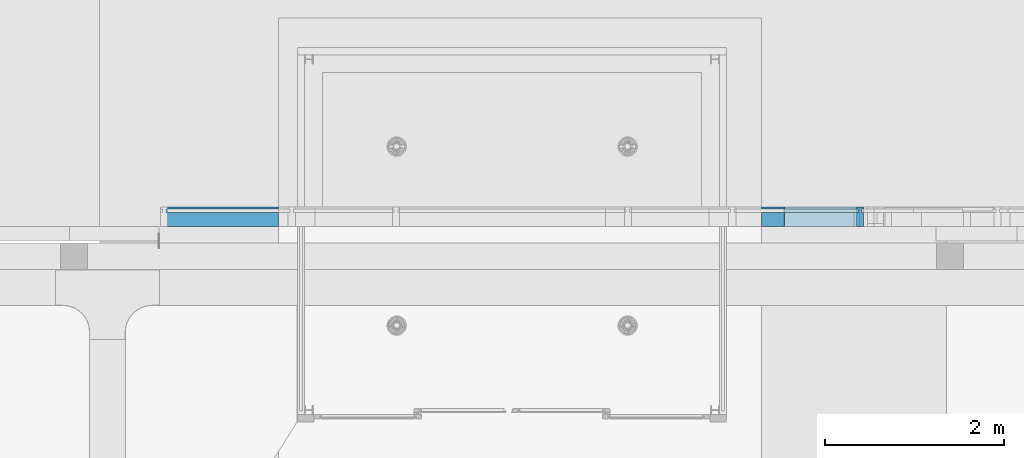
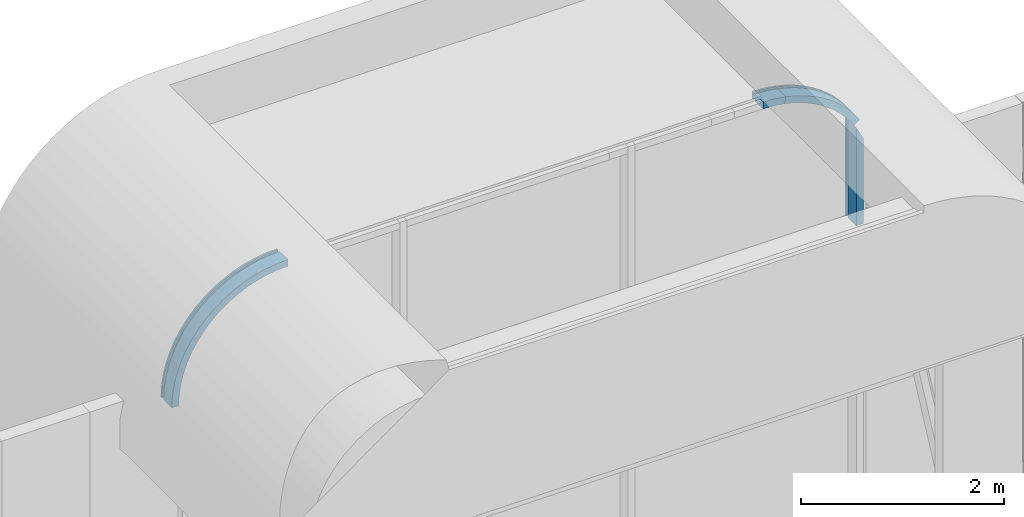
# One storey, part 211 of 302: 4 members, 1 element without a shape of its own.
"""IFC2X3 building model written with IfcOpenShell, lengths in metres."""

import ifcopenshell
import ifcopenshell.guid

model = None  # the IFC model being written
_history = None  # IfcOwnerHistory: only IFC2X3 demands one
_inside = {}  # id of a spatial element -> (the spatial element, [elements in it])
_under = {}  # id of a project, library or spatial element -> (it, [spatial elements below it])
_declared = {}  # id of a project -> (the project, [libraries it declares])
_typed = {}  # id of a type object -> (the type object, [elements of that type])
_made_of = {}  # id of a material, layer set ... -> (it, [elements and type objects made of it])


def new_model(schema):
    """Start an empty IFC model of exactly this schema.

    Asked for "IFC4X3", IfcOpenShell would pick the latest addendum, in which some entities
    have other attributes; the version numbers below select the first issue.
    IFC2X3 requires an IfcOwnerHistory on every rooted entity: one is made here for all.
    """
    global model, _history
    if schema == "IFC4X3":
        model = ifcopenshell.file(schema_version=(4, 3, 0, 0))
    else:
        model = ifcopenshell.file(schema=schema)
    _inside.clear()
    _under.clear()
    _declared.clear()
    _typed.clear()
    _made_of.clear()
    _history = None
    if model.schema == "IFC2X3":
        org = make("IfcOrganization", Name="unknown")
        user = make(
            "IfcPersonAndOrganization",
            ThePerson=make("IfcPerson", FamilyName="unknown"),
            TheOrganization=org,
        )
        app = make(
            "IfcApplication",
            ApplicationDeveloper=org,
            Version="unknown",
            ApplicationFullName="unknown",
            ApplicationIdentifier="unknown",
        )
        _history = make(
            "IfcOwnerHistory",
            OwningUser=user,
            OwningApplication=app,
            ChangeAction="ADDED",
            CreationDate=0,
        )
    return model


def make(cls, **values):
    """One entity of the class cls with the attributes given. An attribute that is None is left unset."""
    return model.create_entity(
        cls, **{name: value for name, value in values.items() if value is not None}
    )


def entity(cls, *values):
    """Any entity or typed value of the class cls, its attributes in the order of the schema. None: left unset."""
    e = model.create_entity(cls)
    for i, value in enumerate(values):
        if value is not None:
            e[i] = value
    return e


def rooted(cls, **values):
    """An entity with a GlobalId (a new one), such as an element, a storey or a relation."""
    return make(cls, GlobalId=ifcopenshell.guid.new(), OwnerHistory=_history, **values)


def si_unit(unit_type, name, prefix=None):
    """IfcSIUnit, for example si_unit("LENGTHUNIT", "METRE", prefix="MILLI")."""
    return make("IfcSIUnit", UnitType=unit_type, Prefix=prefix, Name=name)


def converted_unit(unit_type, name, factor, base, dimensions=None, offset=None):
    """IfcConversionBasedUnit, such as the inch: factor (a typed value) times the base unit."""
    return make(
        "IfcConversionBasedUnit"
        if offset is None
        else "IfcConversionBasedUnitWithOffset",
        ConversionOffset=offset,
        Dimensions=None
        if dimensions is None
        else entity("IfcDimensionalExponents", *dimensions),
        UnitType=unit_type,
        Name=name,
        ConversionFactor=make(
            "IfcMeasureWithUnit", ValueComponent=factor, UnitComponent=base
        ),
    )


def derived_unit(unit_type, elements):
    """IfcDerivedUnit: a product of units, each with its exponent."""
    return make(
        "IfcDerivedUnit",
        Elements=[
            make("IfcDerivedUnitElement", Unit=unit, Exponent=power)
            for unit, power in elements
        ],
        UnitType=unit_type,
    )


def assignment(units):
    """IfcUnitAssignment: the units of a project."""
    return None if units is None else make("IfcUnitAssignment", Units=units)


def point(xyz):
    """IfcCartesianPoint."""
    return None if xyz is None else make("IfcCartesianPoint", Coordinates=xyz)


def direction(xyz):
    """IfcDirection."""
    return None if xyz is None else make("IfcDirection", DirectionRatios=xyz)


def frame(location, z_axis=None, x_axis=None):
    """IfcAxis2Placement3D, a coordinate frame: its origin and axes. An axis left out is left unset."""
    return make(
        "IfcAxis2Placement3D",
        Location=point(location),
        Axis=direction(z_axis),
        RefDirection=direction(x_axis),
    )


def origin():
    """The frame at (0, 0, 0) with its axes left unset."""
    return frame((0.0, 0.0, 0.0))


def place(relative_to, where):
    """IfcLocalPlacement: puts the frame where relative to a parent placement (None: the world)."""
    return make(
        "IfcLocalPlacement", PlacementRelTo=relative_to, RelativePlacement=where
    )


def context(
    kind, dimensions, precision=None, world=None, true_north=None, identifier=None
):
    """IfcGeometricRepresentationContext, for example the 3D "Model" context."""
    return make(
        "IfcGeometricRepresentationContext",
        ContextIdentifier=identifier,
        ContextType=kind,
        CoordinateSpaceDimension=dimensions,
        Precision=precision,
        WorldCoordinateSystem=world,
        TrueNorth=true_north,
    )


def subcontext(parent, identifier, kind, view, scale=None):
    """IfcGeometricRepresentationSubContext, for example "Body" below "Model"."""
    return make(
        "IfcGeometricRepresentationSubContext",
        ContextIdentifier=identifier,
        ContextType=kind,
        ParentContext=parent,
        TargetScale=scale,
        TargetView=view,
    )


def project(units=None, contexts=None):
    """IfcProject with its units and contexts."""
    return rooted(
        "IfcProject",
        Name="project",
        RepresentationContexts=contexts,
        UnitsInContext=assignment(units),
    )


def spatial(cls, under=None, at=None, **own):
    """A site, building, storey or space (cls), placed at a placement, below another one or the project."""
    s = rooted(cls, ObjectPlacement=at, **own)
    if under is not None:
        _under.setdefault(under.id(), (under, []))[1].append(s)
    return s


def faces_of(points, faces, orient=None, outer=None):
    """IfcFace entities. A face is a list of loops; a loop is a list of indices into points, from 0.

    orient and outer hold one flag for each loop. By default every Orientation is true, the
    first loop of a face is its IfcFaceOuterBound and the others are IfcFaceBound.
    """
    made = []
    for i, loops in enumerate(faces):
        bounds = []
        for j, loop in enumerate(loops):
            is_outer = j == 0 if outer is None else outer[i][j]
            bounds.append(
                make(
                    "IfcFaceOuterBound" if is_outer else "IfcFaceBound",
                    Bound=make("IfcPolyLoop", Polygon=[points[k] for k in loop]),
                    Orientation=True if orient is None else orient[i][j],
                )
            )
        made.append(make("IfcFace", Bounds=bounds))
    return made


def faceted_brep(points, faces, orient=None, outer=None, voids=None):
    """IfcFacetedBrep: a solid bounded by flat faces; with voids (closed shells), ...WithVoids."""
    shared = [point(p) for p in points]
    hull = make("IfcClosedShell", CfsFaces=faces_of(shared, faces, orient, outer))
    if voids is None:
        return make("IfcFacetedBrep", Outer=hull)
    return make(
        "IfcFacetedBrepWithVoids",
        Outer=hull,
        Voids=[
            make(cls, CfsFaces=faces_of(shared, fs, o, b)) for cls, fs, o, b in voids
        ],
    )


def shape(context_of_items, identifier, shape_type, items):
    """IfcShapeRepresentation: the items that make up one representation, for example the "Body"."""
    return make(
        "IfcShapeRepresentation",
        ContextOfItems=context_of_items,
        RepresentationIdentifier=identifier,
        RepresentationType=shape_type,
        Items=items,
    )


def source(mapping_origin, context_of_items, identifier, shape_type, items):
    """IfcRepresentationMap: a shape defined once, which mapped items show again and again."""
    return make(
        "IfcRepresentationMap",
        MappingOrigin=mapping_origin,
        MappedRepresentation=shape(context_of_items, identifier, shape_type, items),
    )


def transform(
    local_origin,
    x_axis=None,
    y_axis=None,
    z_axis=None,
    scale=None,
    scale2=None,
    scale3=None,
    uniform=True,
):
    """IfcCartesianTransformationOperator3D, or its non-uniform kind. x_axis, y_axis, z_axis: its Axis1, 2, 3."""
    if uniform:
        return make(
            "IfcCartesianTransformationOperator3D",
            Axis1=direction(x_axis),
            Axis2=direction(y_axis),
            LocalOrigin=point(local_origin),
            Scale=scale,
            Axis3=direction(z_axis),
        )
    return make(
        "IfcCartesianTransformationOperator3DnonUniform",
        Axis1=direction(x_axis),
        Axis2=direction(y_axis),
        LocalOrigin=point(local_origin),
        Scale=scale,
        Axis3=direction(z_axis),
        Scale2=scale2,
        Scale3=scale3,
    )


def mapped(mapping_source, mapping_target):
    """IfcMappedItem: shows the shape of a source again, moved by a transform."""
    return make(
        "IfcMappedItem", MappingSource=mapping_source, MappingTarget=mapping_target
    )


def material(Name=None, Category=None):
    """IfcMaterial."""
    return make("IfcMaterial", Name=Name, Category=Category)


def made_of(thing, what):
    """Note that an element or type object is made of a material, layer set ...; save() writes the relation."""
    if what is not None:
        _made_of.setdefault(what.id(), (what, []))[1].append(thing)
    return thing


def type_object(cls, material=None, **own):
    """A type object (cls), such as IfcWallType, which elements share."""
    return made_of(rooted(cls, **own), material)


def type_shapes(of_type, sources):
    """Give a type object the sources (RepresentationMaps) that its elements show as mapped items."""
    of_type.RepresentationMaps = sources


def element(
    cls,
    number,
    at=None,
    inside=None,
    cuts=None,
    type_object=None,
    material=None,
    context=None,
    identifier="Body",
    shape_type=None,
    held_by="IfcProductDefinitionShape",
    body=None,
    shapes=None,
    **own,
):
    """One element of the class cls, such as IfcWall. Its Tag is "e" and its number.

    at: its placement. inside: the storey or other place that contains it. cuts: it is an
    opening in that element (IfcRelVoidsElement). A single representation is given by context,
    identifier, shape_type and body (its items); several are given by shapes. held_by: the class
    of the entity that holds the representations. save() writes the other relations.
    """
    e = rooted(cls, Tag="e%d" % number, ObjectPlacement=at, **own)
    if body is not None:
        shapes = [shape(context, identifier, shape_type, body)]
    if shapes is not None:
        e.Representation = make(held_by, Representations=shapes)
    if inside is not None:
        _inside.setdefault(inside.id(), (inside, []))[1].append(e)
    if cuts is not None:
        rooted(
            "IfcRelVoidsElement", RelatingBuildingElement=cuts, RelatedOpeningElement=e
        )
    if type_object is not None:
        _typed.setdefault(type_object.id(), (type_object, []))[1].append(e)
    return made_of(e, material)


def aggregate(whole, parts):
    """IfcRelAggregates: a whole, such as a stair, and the parts it consists of."""
    return rooted("IfcRelAggregates", RelatingObject=whole, RelatedObjects=parts)


def save(model, path):
    """Write the relations noted so far, then the file.

    IfcRelAggregates (storeys below a building ...), IfcRelContainedInSpatialStructure (elements
    in a storey), IfcRelDefinesByType, IfcRelAssociatesMaterial and IfcRelDeclares: one each for
    every whole, place, type object, material and project.
    """
    for whole, parts in _under.values():
        aggregate(whole, parts)
    for where, things in _inside.values():
        rooted(
            "IfcRelContainedInSpatialStructure",
            RelatedElements=things,
            RelatingStructure=where,
        )
    for kind, things in _typed.values():
        rooted("IfcRelDefinesByType", RelatedObjects=things, RelatingType=kind)
    for what, things in _made_of.values():
        rooted("IfcRelAssociatesMaterial", RelatedObjects=things, RelatingMaterial=what)
    for by, libraries in _declared.values():
        rooted("IfcRelDeclares", RelatingContext=by, RelatedDefinitions=libraries)
    model.write(path)


model = new_model("IFC2X3")

# Units and contexts
model_context = context("Model", 3, precision=1e-05, world=origin(), true_north=direction((6.12303176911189e-17, 1.0)))
body_context = subcontext(model_context, "Body", "Model", "MODEL_VIEW")
ifc_project = project(units=[si_unit("LENGTHUNIT", "METRE"), si_unit("AREAUNIT", "SQUARE_METRE"), si_unit("VOLUMEUNIT", "CUBIC_METRE"), converted_unit("PLANEANGLEUNIT", "DEGREE", entity("IfcRatioMeasure", 0.0174532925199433), si_unit("PLANEANGLEUNIT", "RADIAN"), dimensions=[0, 0, 0, 0, 0, 0, 0]), si_unit("MASSUNIT", "GRAM", prefix="KILO"), derived_unit("MASSDENSITYUNIT", [(si_unit("MASSUNIT", "GRAM", prefix="KILO"), 1), (si_unit("LENGTHUNIT", "METRE"), -3)]), derived_unit("MOMENTOFINERTIAUNIT", [(si_unit("LENGTHUNIT", "METRE"), 4)]), si_unit("TIMEUNIT", "SECOND"), si_unit("FREQUENCYUNIT", "HERTZ"), si_unit("THERMODYNAMICTEMPERATUREUNIT", "DEGREE_CELSIUS"), derived_unit("THERMALTRANSMITTANCEUNIT", [(si_unit("MASSUNIT", "GRAM", prefix="KILO"), 1), (si_unit("THERMODYNAMICTEMPERATUREUNIT", "KELVIN"), -1), (si_unit("TIMEUNIT", "SECOND"), -3)]), derived_unit("VOLUMETRICFLOWRATEUNIT", [(si_unit("LENGTHUNIT", "METRE"), 3), (si_unit("TIMEUNIT", "SECOND"), -1)]), si_unit("ELECTRICCURRENTUNIT", "AMPERE"), si_unit("ELECTRICVOLTAGEUNIT", "VOLT"), si_unit("POWERUNIT", "WATT"), si_unit("FORCEUNIT", "NEWTON", prefix="KILO"), si_unit("ILLUMINANCEUNIT", "LUX"), si_unit("LUMINOUSFLUXUNIT", "LUMEN"), si_unit("LUMINOUSINTENSITYUNIT", "CANDELA"), derived_unit("USERDEFINED", [(si_unit("MASSUNIT", "GRAM", prefix="KILO"), -1), (si_unit("LENGTHUNIT", "METRE"), -2), (si_unit("TIMEUNIT", "SECOND"), 3), (si_unit("LUMINOUSFLUXUNIT", "LUMEN"), 1)]), derived_unit("LINEARVELOCITYUNIT", [(si_unit("LENGTHUNIT", "METRE"), 1), (si_unit("TIMEUNIT", "SECOND"), -1)]), si_unit("PRESSUREUNIT", "PASCAL"), derived_unit("USERDEFINED", [(si_unit("LENGTHUNIT", "METRE"), -2), (si_unit("MASSUNIT", "GRAM", prefix="KILO"), 1), (si_unit("TIMEUNIT", "SECOND"), -2)]), derived_unit("LINEARFORCEUNIT", [(si_unit("MASSUNIT", "GRAM", prefix="KILO"), 1), (si_unit("LENGTHUNIT", "METRE"), 1), (si_unit("TIMEUNIT", "SECOND"), -2), (si_unit("LENGTHUNIT", "METRE"), -1)]), derived_unit("PLANARFORCEUNIT", [(si_unit("MASSUNIT", "GRAM", prefix="KILO"), 1), (si_unit("LENGTHUNIT", "METRE"), 1), (si_unit("TIMEUNIT", "SECOND"), -2), (si_unit("LENGTHUNIT", "METRE"), -2)])], contexts=[model_context])

# Site, building, storey
site_placement = place(None, origin())
site = spatial("IfcSite", under=ifc_project, at=site_placement, Name="Default", CompositionType="ELEMENT")
building_placement = place(site_placement, origin())
building = spatial("IfcBuilding", under=site, at=building_placement, CompositionType="ELEMENT")
storey_placement = place(building_placement, frame((0.0, 0.0, -1.3)))
storey = spatial("IfcBuildingStorey", under=building, at=storey_placement, Name="00_EG", CompositionType="ELEMENT", Elevation=-1.3)

# Curtain wall, members
curtain_wall_type = type_object("IfcCurtainWallType", Name="Fassade:Glasfassade", PredefinedType="NOTDEFINED")
curtain_wall_placement = place(storey_placement, frame((0.0, 0.0, 1.3)))
curtain_wall = element("IfcCurtainWall", 1, at=curtain_wall_placement, inside=storey, type_object=curtain_wall_type, Name="Fassade:Glasfassade", ObjectType="Fassade:Glasfassade")
ifc_material = material(Name="Prepainted_Steel-ArcelorMittal_Construction_HAIRULTRA-35-CORAL-4309-[RAL_3000]")
member_type_1 = type_object("IfcMemberType", Name="Rectangular Mullion:Fassadenrahmen Typ 1", PredefinedType="MULLION", material=ifc_material)
shared_shape_1 = source(origin(), body_context, "Body", "Brep", [
    faceted_brep([(0.0399999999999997, 0.16, 0.0), (0.0199999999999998, 0.16, 0.0), (0.0199999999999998, 0.195, 0.0), (0.0399999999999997, 0.195, 0.0), (0.0399999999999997, 0.22, 0.0), (-0.0400000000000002, 0.22, 0.0), (-0.0400000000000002, 0.195, 0.0), (-0.0200000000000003, 0.195, 0.0), (-0.0200000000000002, 0.16, 0.0), (-0.0400000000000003, 0.16, 0.0), (-0.0400000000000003, 0.0, 0.0), (0.0399999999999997, 0.0, 0.0), (0.0399999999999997, 0.0, -1.17743013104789), (0.0399999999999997, 0.16, -1.17743013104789), (0.0399999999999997, 0.195, -1.17743013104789), (0.0399999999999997, 0.22, -1.17743013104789), (0.0298631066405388, 0.16, -1.16038886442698), (0.0199999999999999, 0.16, -1.14318768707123), (-0.0200000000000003, 0.16, -1.065889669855), (-0.0302184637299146, 0.16, -1.04376094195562), (-0.04, 0.16, -1.02143563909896), (0.0199999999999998, 0.195, -1.14318768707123), (0.0298631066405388, 0.195, -1.16038886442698), (-0.0400000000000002, 0.195, -1.02143563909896), (-0.0302184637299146, 0.195, -1.04376094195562), (-0.0200000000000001, 0.195, -1.065889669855), (0.0293099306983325, 0.22, -1.15828471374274), (0.0186198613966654, 0.22, -1.13913929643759), (-0.002760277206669, 0.22, -1.10084846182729), (-0.0213801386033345, 0.22, -1.06114205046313), (-0.0306900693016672, 0.22, -1.04128884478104), (-0.04, 0.22, -1.02143563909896), (-0.0400000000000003, 0.0, -1.02143563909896), (-0.002760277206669, 0.0, -1.10084846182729)], [[[0, 1, 2, 3, 4, 5, 6, 7, 8, 9, 10, 11]], [[0, 11, 12, 13]], [[4, 3, 14, 15]], [[1, 0, 13, 16, 17]], [[9, 8, 18, 19, 20]], [[2, 1, 17, 21]], [[3, 2, 21, 22, 14]], [[7, 6, 23, 24, 25]], [[5, 4, 15, 26, 27, 28, 29, 30, 31]], [[6, 5, 31, 23]], [[10, 9, 20, 32]], [[8, 7, 25, 18]], [[11, 10, 32, 33, 12]], [[13, 12, 16]], [[15, 14, 22]], [[21, 28, 27, 26]], [[17, 16, 12]], [[17, 18, 28]], [[26, 15, 22]], [[21, 26, 22]], [[28, 21, 17]], [[17, 12, 33]], [[18, 32, 19]], [[32, 18, 33]], [[32, 20, 19]], [[24, 29, 25]], [[25, 28, 18]], [[23, 31, 30]], [[23, 30, 24]], [[30, 29, 24]], [[25, 29, 28]], [[18, 17, 33]]]),
])
type_shapes(member_type_1, [shared_shape_1])
member_1_placement = place(storey_placement, frame((-228.3679697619, 45.738088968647, 10.18), z_axis=(0.0, 0.0, -1.0), x_axis=(-1.0, 0.0, 0.0)))
member_1 = element("IfcMember", 2, at=member_1_placement, type_object=member_type_1, material=ifc_material, Name="Rectangular Mullion:Fassadenrahmen Typ 1", ObjectType="Rectangular Mullion:Fassadenrahmen Typ 1", context=body_context, shape_type="MappedRepresentation", body=[
    mapped(shared_shape_1, transform((0.0, 0.0, 0.0), scale=1.0)),
])
member_type_2 = type_object("IfcMemberType", Name="Rectangular Mullion:Fassadenrahmen Typ 1", PredefinedType="MULLION", material=ifc_material)
shared_shape_2 = source(origin(), body_context, "Body", "Brep", [
    faceted_brep([(0.0, 0.0, 0.0), (-0.00289525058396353, 0.0, -0.0873789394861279), (-0.00289525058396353, 0.16, -0.0873789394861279), (0.0, 0.16, 0.0), (0.0, 0.195, 0.0), (-0.00289525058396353, 0.195, -0.0873789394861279), (-0.00289525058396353, 0.22, -0.0873789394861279), (0.0, 0.22, 0.0), (-0.0115683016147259, 0.0, -0.174374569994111), (-0.0115683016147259, 0.16, -0.174374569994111), (-0.0115683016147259, 0.195, -0.174374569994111), (-0.0115683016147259, 0.22, -0.174374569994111), (-0.0259811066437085, 0.0, -0.260605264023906), (-0.0259811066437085, 0.16, -0.260605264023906), (-0.0259811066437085, 0.195, -0.260605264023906), (-0.0259811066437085, 0.22, -0.260605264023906), (-0.0455874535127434, 0.16, -0.256656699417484), (-0.0313930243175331, 0.16, -0.171732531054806), (-0.0228513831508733, 0.16, -0.0860550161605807), (-0.0200000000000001, 0.16, 0.0), (-0.104406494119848, 0.16, -0.244811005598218), (-0.0861167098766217, 0.16, -0.123012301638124), (-0.0799999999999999, 0.16, 0.0), (-0.0599999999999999, 0.16, 0.0), (-0.0662153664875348, 0.16, -0.124996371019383), (-0.0848001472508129, 0.16, -0.24875957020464), (-0.0228513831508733, 0.195, -0.0860550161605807), (-0.0200000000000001, 0.195, 0.0), (-0.0313930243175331, 0.195, -0.171732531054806), (-0.0455874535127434, 0.195, -0.256656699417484), (-0.0848001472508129, 0.195, -0.24875957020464), (-0.0662153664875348, 0.195, -0.124996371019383), (-0.0599999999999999, 0.195, 0.0), (-0.0799999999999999, 0.195, 0.0), (-0.0861167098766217, 0.195, -0.123012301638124), (-0.104406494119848, 0.195, -0.244811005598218), (-0.0861167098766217, 0.22, -0.123012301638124), (-0.0799999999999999, 0.22, 0.0), (-0.104406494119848, 0.22, -0.244811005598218), (-0.0861167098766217, 0.0, -0.123012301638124), (-0.0799999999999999, 0.0, 0.0), (-0.104406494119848, 0.0, -0.244811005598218)], [[[0, 1, 2, 3]], [[4, 5, 6, 7]], [[1, 8, 9, 2]], [[5, 10, 11, 6]], [[8, 12, 13, 9]], [[10, 14, 15, 11]], [[9, 13, 16, 17, 18, 19, 3, 2]], [[20, 21, 22, 23, 24, 25]], [[19, 18, 26, 27]], [[18, 17, 28, 26]], [[17, 16, 29, 28]], [[28, 29, 14, 10, 5, 4, 27, 26]], [[30, 31, 32, 33, 34, 35]], [[36, 37, 7, 6, 11, 15, 38]], [[34, 33, 37, 36]], [[21, 39, 40, 22]], [[38, 35, 34, 36]], [[20, 41, 39, 21]], [[24, 23, 32, 31]], [[30, 25, 24, 31]], [[1, 0, 40, 39, 41, 12, 8]], [[23, 22, 40, 0, 3, 19, 27, 4, 7, 37, 33, 32]], [[15, 14, 29, 16, 13, 12, 41, 20, 25, 30, 35, 38]]]),
])
type_shapes(member_type_2, [shared_shape_2])
member_2_placement = place(storey_placement, frame((-229.468575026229, 45.738088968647, 12.035), z_axis=(-1.0, 0.0, 0.0), x_axis=(0.0, 0.0, 1.0)))
member_2 = element("IfcMember", 3, at=member_2_placement, type_object=member_type_2, material=ifc_material, Name="Rectangular Mullion:Fassadenrahmen Typ 1", ObjectType="Rectangular Mullion:Fassadenrahmen Typ 1", context=body_context, shape_type="MappedRepresentation", body=[
    mapped(shared_shape_2, transform((0.0, 0.0, 0.0), scale=1.0)),
])
member_type_3 = type_object("IfcMemberType", Name="Rectangular Mullion:Fassadenrahmen Typ 1", PredefinedType="MULLION", material=ifc_material)
shared_shape_3 = source(origin(), body_context, "Body", "Brep", [
    faceted_brep([(-0.00635616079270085, 0.16, -0.12938262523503), (0.0, 0.16, 0.0), (0.0, 0.0, 0.0), (-0.00635616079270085, 0.0, -0.12938262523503), (-0.00635616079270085, 0.195, -0.12938262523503), (-0.00635616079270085, 0.22, -0.12938262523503), (0.0, 0.22, 0.0), (0.0, 0.195, 0.0), (-0.0253634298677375, 0.0, -0.2575192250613), (-0.0253634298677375, 0.16, -0.2575192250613), (-0.0253634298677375, 0.22, -0.2575192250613), (-0.0253634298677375, 0.195, -0.2575192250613), (-0.0568387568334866, 0.0, -0.383175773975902), (-0.0568387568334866, 0.16, -0.383175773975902), (-0.0568387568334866, 0.195, -0.383175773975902), (-0.0568387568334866, 0.22, -0.383175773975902), (-0.222460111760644, 0.16, -0.733352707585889), (-0.222460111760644, 0.0, -0.733352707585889), (-0.299626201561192, 0.0, -0.837399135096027), (-0.299626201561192, 0.16, -0.837399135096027), (-0.299626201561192, 0.195, -0.837399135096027), (-0.299626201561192, 0.22, -0.837399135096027), (-0.222460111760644, 0.22, -0.733352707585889), (-0.222460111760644, 0.195, -0.733352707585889), (-0.155863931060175, 0.16, -0.62224369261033), (-0.155863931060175, 0.0, -0.62224369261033), (-0.155863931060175, 0.22, -0.62224369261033), (-0.155863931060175, 0.195, -0.62224369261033), (-0.386619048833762, 0.0, -0.933380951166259), (-0.386619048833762, 0.16, -0.933380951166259), (-0.386619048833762, 0.195, -0.933380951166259), (-0.386619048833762, 0.22, -0.933380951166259), (-0.100479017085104, 0.0, -0.505142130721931), (-0.100479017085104, 0.16, -0.505142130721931), (-0.100479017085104, 0.22, -0.505142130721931), (-0.100479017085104, 0.195, -0.505142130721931), (-0.586647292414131, 0.16, -1.09753988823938), (-0.586647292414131, 0.0, -1.09753988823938), (-0.697756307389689, 0.0, -1.16413606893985), (-0.697756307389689, 0.16, -1.16413606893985), (-0.586647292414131, 0.195, -1.09753988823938), (-0.697756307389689, 0.195, -1.16413606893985), (-0.697756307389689, 0.22, -1.16413606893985), (-0.586647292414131, 0.22, -1.09753988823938), (-0.482600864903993, 0.16, -1.02037379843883), (-0.482600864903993, 0.0, -1.02037379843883), (-0.482600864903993, 0.195, -1.02037379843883), (-0.482600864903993, 0.22, -1.02037379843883), (-0.814857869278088, 0.0, -1.21952098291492), (-0.814857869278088, 0.16, -1.21952098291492), (-0.814857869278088, 0.195, -1.21952098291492), (-0.814857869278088, 0.22, -1.21952098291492), (-1.06248077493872, 0.0, -1.29463657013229), (-1.19061737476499, 0.0, -1.31364383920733), (-1.19061737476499, 0.16, -1.31364383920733), (-1.06248077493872, 0.16, -1.29463657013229), (-1.06248077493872, 0.195, -1.29463657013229), (-1.19061737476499, 0.195, -1.31364383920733), (-1.19061737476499, 0.22, -1.31364383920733), (-1.06248077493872, 0.22, -1.29463657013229), (-0.936824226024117, 0.16, -1.26316124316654), (-0.936824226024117, 0.0, -1.26316124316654), (-0.936824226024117, 0.195, -1.26316124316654), (-0.936824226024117, 0.22, -1.26316124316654), (-1.32000000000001, 0.0, -1.32000000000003), (-1.32000000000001, 0.16, -1.32000000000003), (-1.32000000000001, 0.195, -1.32000000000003), (-1.32000000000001, 0.22, -1.32000000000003), (-1.32000000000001, 0.16, -1.30000000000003), (-1.19257771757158, 0.16, -1.29374014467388), (-1.06638258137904, 0.16, -1.27502086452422), (-0.942629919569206, 0.16, -1.24402243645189), (-0.82251153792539, 0.16, -1.20104339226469), (-0.707184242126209, 0.16, -1.14649764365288), (-0.597758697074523, 0.16, -1.08091049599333), (-0.495288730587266, 0.16, -1.00491358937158), (-0.400761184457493, 0.16, -0.919238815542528), (-0.315086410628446, 0.16, -0.824711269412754), (-0.239089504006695, 0.16, -0.722241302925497), (-0.173502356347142, 0.16, -0.61281575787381), (-0.11895660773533, 0.16, -0.497488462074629), (-0.0759775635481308, 0.16, -0.377370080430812), (-0.044979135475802, 0.16, -0.253617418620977), (-0.0262598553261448, 0.16, -0.127422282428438), (-0.0200000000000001, 0.16, 0.0), (-0.72604011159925, 0.16, -1.11122079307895), (-0.837818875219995, 0.16, -1.16408821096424), (-0.954241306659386, 0.16, -1.20574482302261), (-1.07418619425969, 0.16, -1.23578945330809), (-1.19649840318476, 0.16, -1.25393275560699), (-1.32000000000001, 0.16, -1.26000000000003), (-1.32000000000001, 0.16, -1.24000000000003), (-1.19845874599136, 0.16, -1.23402906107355), (-1.07808800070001, 0.16, -1.21617374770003), (-0.960047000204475, 0.16, -1.18660601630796), (-0.845472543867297, 0.16, -1.14561062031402), (-0.73546804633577, 0.16, -1.09358236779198), (-0.6310929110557, 0.16, -1.03102231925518), (-0.533352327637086, 0.16, -0.958532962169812), (-0.443187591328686, 0.16, -0.876812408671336), (-0.361467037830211, 0.16, -0.786647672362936), (-0.288977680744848, 0.16, -0.688907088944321), (-0.226417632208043, 0.16, -0.584531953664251), (-0.174389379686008, 0.16, -0.474527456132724), (-0.133393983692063, 0.16, -0.359952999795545), (-0.103826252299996, 0.16, -0.24191199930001), (-0.0859709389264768, 0.16, -0.121541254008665), (-0.0799999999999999, 0.16, 0.0), (-0.0599999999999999, 0.16, 0.0), (-0.0660672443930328, 0.16, -0.123501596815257), (-0.0842105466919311, 0.16, -0.245813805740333), (-0.114255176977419, 0.16, -0.365758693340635), (-0.155911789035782, 0.16, -0.482181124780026), (-0.208779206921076, 0.16, -0.593959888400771), (-0.272348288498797, 0.16, -0.700018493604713), (-0.346006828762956, 0.16, -0.799335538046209), (-0.429045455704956, 0.16, -0.890954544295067), (-0.520664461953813, 0.16, -0.973993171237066), (-0.619981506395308, 0.16, -1.04765171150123), (-0.044979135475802, 0.195, -0.253617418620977), (-0.0262598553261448, 0.195, -0.127422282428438), (-0.0200000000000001, 0.195, 0.0), (-0.0759775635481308, 0.195, -0.377370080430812), (-0.173502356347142, 0.195, -0.61281575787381), (-0.11895660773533, 0.195, -0.497488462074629), (-0.239089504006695, 0.195, -0.722241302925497), (-0.315086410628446, 0.195, -0.824711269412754), (-0.400761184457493, 0.195, -0.919238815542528), (-0.597758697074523, 0.195, -1.08091049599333), (-0.495288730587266, 0.195, -1.00491358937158), (-0.82251153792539, 0.195, -1.20104339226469), (-0.707184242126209, 0.195, -1.14649764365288), (-1.06638258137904, 0.195, -1.27502086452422), (-0.942629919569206, 0.195, -1.24402243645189), (-1.32000000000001, 0.195, -1.30000000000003), (-1.19257771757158, 0.195, -1.29374014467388), (-0.619981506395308, 0.195, -1.04765171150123), (-0.520664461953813, 0.195, -0.973993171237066), (-0.429045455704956, 0.195, -0.890954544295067), (-0.346006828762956, 0.195, -0.799335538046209), (-0.272348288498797, 0.195, -0.700018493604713), (-0.208779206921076, 0.195, -0.593959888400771), (-0.155911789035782, 0.195, -0.482181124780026), (-0.114255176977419, 0.195, -0.365758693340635), (-0.0842105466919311, 0.195, -0.245813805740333), (-0.0660672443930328, 0.195, -0.123501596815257), (-0.0599999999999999, 0.195, 0.0), (-0.0799999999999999, 0.195, 0.0), (-0.0859709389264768, 0.195, -0.121541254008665), (-0.103826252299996, 0.195, -0.24191199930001), (-0.133393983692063, 0.195, -0.359952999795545), (-0.174389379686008, 0.195, -0.474527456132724), (-0.226417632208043, 0.195, -0.584531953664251), (-0.288977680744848, 0.195, -0.688907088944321), (-0.361467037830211, 0.195, -0.786647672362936), (-0.443187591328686, 0.195, -0.876812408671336), (-0.533352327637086, 0.195, -0.958532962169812), (-0.6310929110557, 0.195, -1.03102231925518), (-0.73546804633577, 0.195, -1.09358236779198), (-0.845472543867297, 0.195, -1.14561062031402), (-0.960047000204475, 0.195, -1.18660601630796), (-1.07808800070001, 0.195, -1.21617374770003), (-1.19845874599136, 0.195, -1.23402906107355), (-1.32000000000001, 0.195, -1.24000000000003), (-1.32000000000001, 0.195, -1.26000000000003), (-1.19649840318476, 0.195, -1.25393275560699), (-1.07418619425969, 0.195, -1.23578945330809), (-0.954241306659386, 0.195, -1.20574482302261), (-0.837818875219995, 0.195, -1.16408821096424), (-0.72604011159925, 0.195, -1.11122079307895), (-1.32000000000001, 0.22, -1.24000000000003), (-1.19845874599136, 0.22, -1.23402906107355), (-1.07808800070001, 0.22, -1.21617374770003), (-0.960047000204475, 0.22, -1.18660601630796), (-0.845472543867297, 0.22, -1.14561062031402), (-0.73546804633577, 0.22, -1.09358236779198), (-0.6310929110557, 0.22, -1.03102231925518), (-0.533352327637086, 0.22, -0.958532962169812), (-0.443187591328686, 0.22, -0.876812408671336), (-0.361467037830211, 0.22, -0.786647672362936), (-0.288977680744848, 0.22, -0.688907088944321), (-0.226417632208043, 0.22, -0.584531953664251), (-0.174389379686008, 0.22, -0.474527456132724), (-0.133393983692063, 0.22, -0.359952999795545), (-0.103826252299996, 0.22, -0.24191199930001), (-0.0859709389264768, 0.22, -0.121541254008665), (-0.0799999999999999, 0.22, 0.0), (-0.103826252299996, 0.0, -0.24191199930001), (-0.0859709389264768, 0.0, -0.121541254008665), (-0.0799999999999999, 0.0, 0.0), (-0.133393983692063, 0.0, -0.359952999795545), (-0.226417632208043, 0.0, -0.584531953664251), (-0.174389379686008, 0.0, -0.474527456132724), (-0.288977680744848, 0.0, -0.688907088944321), (-0.361467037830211, 0.0, -0.786647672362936), (-0.443187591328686, 0.0, -0.876812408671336), (-0.6310929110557, 0.0, -1.03102231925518), (-0.533352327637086, 0.0, -0.958532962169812), (-0.845472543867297, 0.0, -1.14561062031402), (-0.73546804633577, 0.0, -1.09358236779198), (-1.07808800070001, 0.0, -1.21617374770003), (-0.960047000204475, 0.0, -1.18660601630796), (-1.32000000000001, 0.0, -1.24000000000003), (-1.19845874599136, 0.0, -1.23402906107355)], [[[0, 1, 2, 3]], [[4, 5, 6, 7]], [[3, 8, 9, 0]], [[10, 5, 4, 11]], [[12, 13, 9, 8]], [[14, 15, 10, 11]], [[16, 17, 18, 19]], [[20, 21, 22, 23]], [[24, 25, 17, 16]], [[26, 27, 23, 22]], [[18, 28, 29, 19]], [[30, 31, 21, 20]], [[32, 33, 13, 12]], [[34, 15, 14, 35]], [[33, 32, 25, 24]], [[27, 26, 34, 35]], [[36, 37, 38, 39]], [[40, 41, 42, 43]], [[44, 45, 37, 36]], [[46, 40, 43, 47]], [[39, 38, 48, 49]], [[41, 50, 51, 42]], [[52, 53, 54, 55]], [[56, 57, 58, 59]], [[60, 61, 52, 55]], [[62, 56, 59, 63]], [[49, 48, 61, 60]], [[50, 62, 63, 51]], [[54, 53, 64, 65]], [[57, 66, 67, 58]], [[29, 28, 45, 44]], [[31, 30, 46, 47]], [[39, 49, 60, 55, 54, 65, 68, 69, 70, 71, 72, 73, 74, 75, 76, 77, 78, 79, 80, 81, 82, 83, 84, 1, 0, 9, 13, 33, 24, 16, 19, 29, 44, 36]], [[85, 86, 87, 88, 89, 90, 91, 92, 93, 94, 95, 96, 97, 98, 99, 100, 101, 102, 103, 104, 105, 106, 107, 108, 109, 110, 111, 112, 113, 114, 115, 116, 117, 118]], [[119, 120, 83, 82]], [[83, 120, 121, 84]], [[81, 122, 119, 82]], [[79, 123, 124, 80]], [[123, 79, 78, 125]], [[124, 122, 81, 80]], [[77, 126, 125, 78]], [[76, 127, 126, 77]], [[75, 74, 128, 129]], [[73, 72, 130, 131]], [[74, 73, 131, 128]], [[71, 70, 132, 133]], [[69, 68, 134, 135]], [[70, 69, 135, 132]], [[72, 71, 133, 130]], [[127, 76, 75, 129]], [[40, 46, 30, 20, 23, 27, 35, 14, 11, 4, 7, 121, 120, 119, 122, 124, 123, 125, 126, 127, 129, 128, 131, 130, 133, 132, 135, 134, 66, 57, 56, 62, 50, 41]], [[136, 137, 138, 139, 140, 141, 142, 143, 144, 145, 146, 147, 148, 149, 150, 151, 152, 153, 154, 155, 156, 157, 158, 159, 160, 161, 162, 163, 164, 165, 166, 167, 168, 169]], [[42, 51, 63, 59, 58, 67, 170, 171, 172, 173, 174, 175, 176, 177, 178, 179, 180, 181, 182, 183, 184, 185, 186, 6, 5, 10, 15, 34, 26, 22, 21, 31, 47, 43]], [[149, 148, 185, 184]], [[105, 187, 188, 106]], [[147, 186, 185, 148]], [[188, 189, 107, 106]], [[149, 184, 183, 150]], [[187, 105, 104, 190]], [[151, 182, 181, 152]], [[102, 191, 192, 103]], [[153, 152, 181, 180]], [[193, 191, 102, 101]], [[151, 150, 183, 182]], [[104, 103, 192, 190]], [[153, 180, 179, 154]], [[194, 193, 101, 100]], [[179, 178, 155, 154]], [[100, 99, 195, 194]], [[177, 176, 157, 156]], [[196, 197, 98, 97]], [[175, 174, 159, 158]], [[198, 199, 96, 95]], [[176, 175, 158, 157]], [[199, 196, 97, 96]], [[173, 172, 161, 160]], [[200, 201, 94, 93]], [[171, 170, 163, 162]], [[202, 203, 92, 91]], [[172, 171, 162, 161]], [[93, 92, 203, 200]], [[174, 173, 160, 159]], [[201, 198, 95, 94]], [[156, 155, 178, 177]], [[98, 197, 195, 99]], [[110, 109, 145, 144]], [[108, 146, 145, 109]], [[110, 144, 143, 111]], [[112, 142, 141, 113]], [[114, 113, 141, 140]], [[112, 111, 143, 142]], [[114, 140, 139, 115]], [[139, 138, 116, 115]], [[137, 136, 118, 117]], [[169, 168, 86, 85]], [[136, 169, 85, 118]], [[167, 166, 88, 87]], [[165, 164, 90, 89]], [[166, 165, 89, 88]], [[168, 167, 87, 86]], [[137, 117, 116, 138]], [[37, 45, 28, 18, 17, 25, 32, 12, 8, 3, 2, 189, 188, 187, 190, 192, 191, 193, 194, 195, 197, 196, 199, 198, 201, 200, 203, 202, 64, 53, 52, 61, 48, 38]], [[108, 107, 189, 2, 1, 84, 121, 7, 6, 186, 147, 146]], [[64, 202, 91, 90, 164, 163, 170, 67, 66, 134, 68, 65]]]),
])
type_shapes(member_type_3, [shared_shape_3])
member_3_placement = place(storey_placement, frame((-236.178861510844, 45.738088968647, 10.715), z_axis=(0.0, 0.0, -1.0), x_axis=(-1.0, 0.0, 0.0)))
member_3 = element("IfcMember", 4, at=member_3_placement, type_object=member_type_3, material=ifc_material, Name="Rectangular Mullion:Fassadenrahmen Typ 1", ObjectType="Rectangular Mullion:Fassadenrahmen Typ 1", context=body_context, shape_type="MappedRepresentation", body=[
    mapped(shared_shape_3, transform((0.0, 0.0, 0.0), scale=1.0)),
])
member_type_4 = type_object("IfcMemberType", Name="Rectangular Mullion:Fassadenrahmen Typ 1", PredefinedType="MULLION", material=ifc_material)
shared_shape_4 = source(origin(), body_context, "Body", "Brep", [
    faceted_brep([(0.0, 0.0, 0.0), (-0.00504614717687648, 0.0, -0.115309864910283), (-0.00504614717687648, 0.16, -0.115309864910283), (0.0, 0.16, 0.0), (-0.00504614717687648, 0.22, -0.115309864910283), (0.0, 0.22, 0.0), (0.0, 0.195, 0.0), (-0.00504614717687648, 0.195, -0.115309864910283), (-0.0451841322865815, 0.0, -0.342409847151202), (-0.0799690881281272, 0.0, -0.452463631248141), (-0.0799690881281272, 0.16, -0.452463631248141), (-0.0451841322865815, 0.16, -0.342409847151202), (-0.0799690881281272, 0.195, -0.452463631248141), (-0.0799690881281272, 0.22, -0.452463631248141), (-0.0451841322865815, 0.22, -0.342409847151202), (-0.0451841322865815, 0.195, -0.342409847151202), (-0.0201460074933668, 0.0, -0.229738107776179), (-0.0201460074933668, 0.16, -0.229738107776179), (-0.0201460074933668, 0.22, -0.229738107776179), (-0.0201460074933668, 0.195, -0.229738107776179), (-0.124234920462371, 0.0, -0.559058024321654), (-0.124234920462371, 0.16, -0.559058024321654), (-0.124234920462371, 0.195, -0.559058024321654), (-0.124234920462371, 0.22, -0.559058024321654), (-0.177643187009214, 0.0, -0.661378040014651), (-0.177643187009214, 0.16, -0.661378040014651), (-0.177643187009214, 0.195, -0.661378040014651), (-0.177643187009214, 0.22, -0.661378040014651), (-0.239785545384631, 0.16, -0.758641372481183), (-0.239785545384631, 0.0, -0.758641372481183), (-0.310186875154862, 0.0, -0.850104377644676), (-0.310186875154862, 0.16, -0.850104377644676), (-0.239785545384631, 0.22, -0.758641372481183), (-0.239785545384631, 0.195, -0.758641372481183), (-0.310186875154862, 0.195, -0.850104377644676), (-0.310186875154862, 0.22, -0.850104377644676), (-0.388308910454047, 0.0, -0.935067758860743), (-0.388308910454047, 0.16, -0.935067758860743), (-0.388308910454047, 0.195, -0.935067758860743), (-0.388308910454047, 0.22, -0.935067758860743), (-0.24007031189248, 0.16, -0.72370703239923), (-0.174195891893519, 0.16, -0.614111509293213), (-0.119407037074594, 0.16, -0.498574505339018), (-0.0762338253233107, 0.16, -0.378213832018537), (-0.0450939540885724, 0.16, -0.25419396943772), (-0.0262886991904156, 0.16, -0.127714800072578), (-0.0200000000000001, 0.16, 0.0), (-0.402425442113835, 0.16, -0.920900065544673), (-0.316392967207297, 0.16, -0.826300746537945), (-0.289913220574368, 0.16, -0.690305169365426), (-0.227079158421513, 0.16, -0.585767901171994), (-0.174819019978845, 0.16, -0.475563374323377), (-0.133638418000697, 0.16, -0.360757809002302), (-0.103935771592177, 0.16, -0.242461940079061), (-0.0859984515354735, 0.16, -0.121820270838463), (-0.0799999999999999, 0.16, 0.0), (-0.0599999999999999, 0.16, 0.0), (-0.0660952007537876, 0.16, -0.123785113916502), (-0.0843218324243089, 0.16, -0.246372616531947), (-0.114503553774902, 0.16, -0.366576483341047), (-0.156348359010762, 0.16, -0.483233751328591), (-0.209451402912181, 0.16, -0.595215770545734), (-0.273298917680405, 0.16, -0.701439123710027), (-0.347273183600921, 0.16, -0.800876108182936), (-0.430658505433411, 0.16, -0.892564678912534), (-0.444775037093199, 0.16, -0.878396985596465), (-0.362713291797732, 0.16, -0.788163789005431), (-0.0262886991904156, 0.195, -0.127714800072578), (-0.0200000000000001, 0.195, 0.0), (-0.0450939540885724, 0.195, -0.25419396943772), (-0.0762338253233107, 0.195, -0.378213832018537), (-0.119407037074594, 0.195, -0.498574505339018), (-0.174195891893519, 0.195, -0.614111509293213), (-0.24007031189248, 0.195, -0.72370703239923), (-0.402425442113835, 0.195, -0.920900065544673), (-0.316392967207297, 0.195, -0.826300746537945), (-0.209451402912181, 0.195, -0.595215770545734), (-0.156348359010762, 0.195, -0.483233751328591), (-0.114503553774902, 0.195, -0.366576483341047), (-0.0843218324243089, 0.195, -0.246372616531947), (-0.0660952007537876, 0.195, -0.123785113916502), (-0.0599999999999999, 0.195, 0.0), (-0.0799999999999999, 0.195, 0.0), (-0.0859984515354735, 0.195, -0.121820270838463), (-0.103935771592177, 0.195, -0.242461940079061), (-0.133638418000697, 0.195, -0.360757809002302), (-0.174819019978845, 0.195, -0.475563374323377), (-0.227079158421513, 0.195, -0.585767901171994), (-0.289913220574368, 0.195, -0.690305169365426), (-0.362713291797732, 0.195, -0.788163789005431), (-0.444775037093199, 0.195, -0.878396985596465), (-0.430658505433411, 0.195, -0.892564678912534), (-0.347273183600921, 0.195, -0.800876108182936), (-0.273298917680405, 0.195, -0.701439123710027), (-0.289913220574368, 0.22, -0.690305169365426), (-0.227079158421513, 0.22, -0.585767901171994), (-0.174819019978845, 0.22, -0.475563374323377), (-0.133638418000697, 0.22, -0.360757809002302), (-0.103935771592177, 0.22, -0.242461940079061), (-0.0859984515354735, 0.22, -0.121820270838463), (-0.0799999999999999, 0.22, 0.0), (-0.444775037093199, 0.22, -0.878396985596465), (-0.362713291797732, 0.22, -0.788163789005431), (-0.0859984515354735, 0.0, -0.121820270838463), (-0.0799999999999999, 0.0, 0.0), (-0.103935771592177, 0.0, -0.242461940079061), (-0.133638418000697, 0.0, -0.360757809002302), (-0.174819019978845, 0.0, -0.475563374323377), (-0.289913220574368, 0.0, -0.690305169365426), (-0.227079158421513, 0.0, -0.585767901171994), (-0.362713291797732, 0.0, -0.788163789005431), (-0.444775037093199, 0.0, -0.878396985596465)], [[[0, 1, 2, 3]], [[4, 5, 6, 7]], [[8, 9, 10, 11]], [[12, 13, 14, 15]], [[16, 8, 11, 17]], [[18, 19, 15, 14]], [[1, 16, 17, 2]], [[19, 18, 4, 7]], [[9, 20, 21, 10]], [[12, 22, 23, 13]], [[21, 20, 24, 25]], [[23, 22, 26, 27]], [[28, 29, 30, 31]], [[32, 33, 34, 35]], [[24, 29, 28, 25]], [[26, 33, 32, 27]], [[31, 30, 36, 37]], [[35, 34, 38, 39]], [[40, 41, 42, 43, 44, 45, 46, 3, 2, 17, 11, 10, 21, 25, 28, 31, 37, 47, 48]], [[49, 50, 51, 52, 53, 54, 55, 56, 57, 58, 59, 60, 61, 62, 63, 64, 65, 66]], [[67, 68, 46, 45]], [[45, 44, 69, 67]], [[43, 70, 69, 44]], [[70, 43, 42, 71]], [[72, 41, 40, 73]], [[48, 47, 74, 75]], [[73, 40, 48, 75]], [[72, 71, 42, 41]], [[33, 26, 22, 12, 15, 19, 7, 6, 68, 67, 69, 70, 71, 72, 73, 75, 74, 38, 34]], [[76, 77, 78, 79, 80, 81, 82, 83, 84, 85, 86, 87, 88, 89, 90, 91, 92, 93]], [[94, 95, 96, 97, 98, 99, 100, 5, 4, 18, 14, 13, 23, 27, 32, 35, 39, 101, 102]], [[83, 82, 100, 99]], [[54, 103, 104, 55]], [[98, 84, 83, 99]], [[54, 53, 105, 103]], [[84, 98, 97, 85]], [[53, 52, 106, 105]], [[96, 86, 85, 97]], [[52, 51, 107, 106]], [[88, 87, 95, 94]], [[108, 109, 50, 49]], [[89, 88, 94, 102]], [[110, 108, 49, 66]], [[90, 89, 102, 101]], [[111, 110, 66, 65]], [[87, 86, 96, 95]], [[50, 109, 107, 51]], [[57, 56, 81, 80]], [[79, 58, 57, 80]], [[58, 79, 78, 59]], [[77, 60, 59, 78]], [[62, 61, 76, 93]], [[92, 91, 64, 63]], [[63, 62, 93, 92]], [[61, 60, 77, 76]], [[24, 20, 9, 8, 16, 1, 0, 104, 103, 105, 106, 107, 109, 108, 110, 111, 36, 30, 29]], [[56, 55, 104, 0, 3, 46, 68, 6, 5, 100, 82, 81]], [[39, 38, 74, 47, 37, 36, 111, 65, 64, 91, 90, 101]]]),
])
type_shapes(member_type_4, [shared_shape_4])
member_4_placement = place(storey_placement, frame((-229.207969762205, 45.738088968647, 12.0090188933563), z_axis=(-0.980317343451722, 0.0, 0.197428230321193), x_axis=(0.197428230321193, 0.0, 0.980317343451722)))
member_4 = element("IfcMember", 5, at=member_4_placement, type_object=member_type_4, material=ifc_material, Name="Rectangular Mullion:Fassadenrahmen Typ 1", ObjectType="Rectangular Mullion:Fassadenrahmen Typ 1", context=body_context, shape_type="MappedRepresentation", body=[
    mapped(shared_shape_4, transform((0.0, 0.0, 0.0), scale=1.0)),
])
aggregate(curtain_wall, [member_1, member_2, member_3, member_4])

save(model, "model.ifc")
